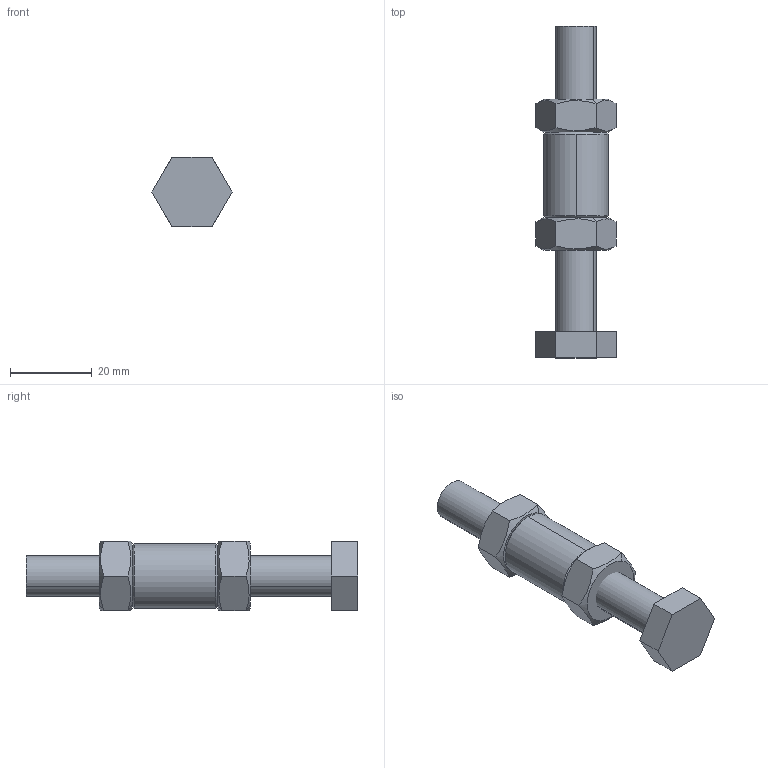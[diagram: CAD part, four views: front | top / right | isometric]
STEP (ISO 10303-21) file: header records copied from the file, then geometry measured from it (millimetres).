
FILE_DESCRIPTION (( 'STEP AP203' ), '1' );
FILE_NAME ('PSB-M10.STEP', '2011-05-20T19:39:28', ( 'Usuario' ), ( '' ), 'SwSTEP 2.0', 'SolidWorks 2011', '' );
FILE_SCHEMA (( 'CONFIG_CONTROL_DESIGN' ));
Length unit declared in the file: millimetre
Products named in the file (4): 12.50021; 11.50003; PSB-M10; 20.20005
Assembly tree (4 placements, depth 2):
  PSB-M10
    20.20005
    11.50003  x2
    12.50021
Bounding box: 19.63 x 81.4 x 17 mm (x, y, z)
Volume: 12836 mm3; surface area: 7171.4 mm2
Topology: 4 solids, 4 shells, 61 faces, 140 edges, 88 vertices
Faces by surface type: plane 27, cone 24, cylinder 10
Entity records: 1744 total; most frequent: CARTESIAN_POINT 330, DIRECTION 220, ORIENTED_EDGE 192, EDGE_CURVE 96, AXIS2_PLACEMENT_3D 86, VERTEX_POINT 60, LINE 48, VECTOR 48
